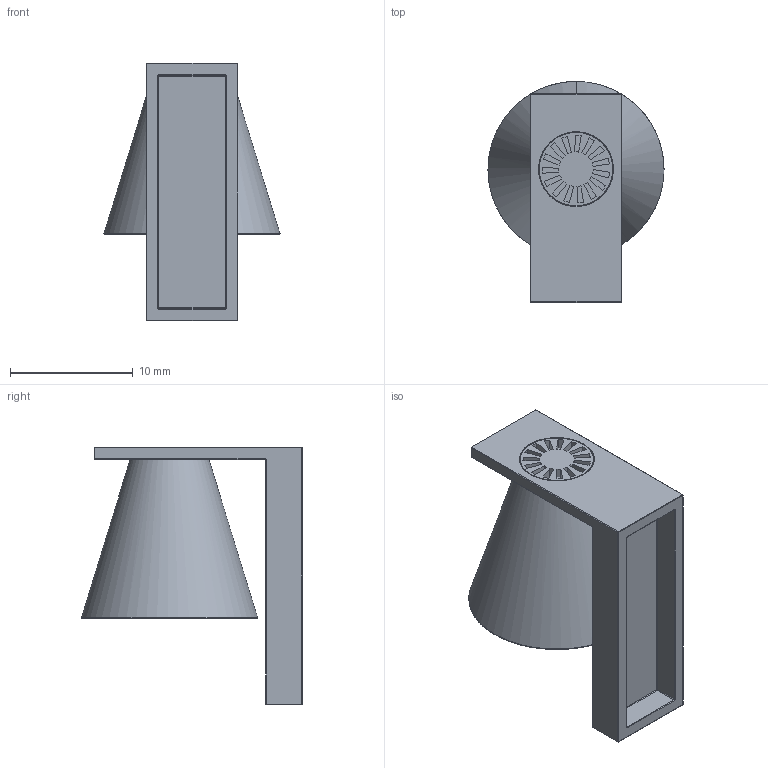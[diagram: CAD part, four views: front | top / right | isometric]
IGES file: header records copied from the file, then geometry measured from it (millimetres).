
Global section: file name: D:\3ddFactory\3D_Kartell\Ex-novo_3dd\Light air\9125\Light-air_3d_Eugeni Quitllet_Kartell.igs; native system: Rhinoceros ( Mar 10 2014 ); preprocessor: Trout Lake IGES 012 Mar 10 2014; date: 180215.180534; units: millimetre
Bounding box: 14.36 x 18.02 x 21 mm (x, y, z)
Surface area: 2757.9 mm2 (no closed solid volume)
Topology: 0 solids, 0 shells, 303 faces, 1379 edges, 1375 vertices
Faces by surface type: bspline 303
